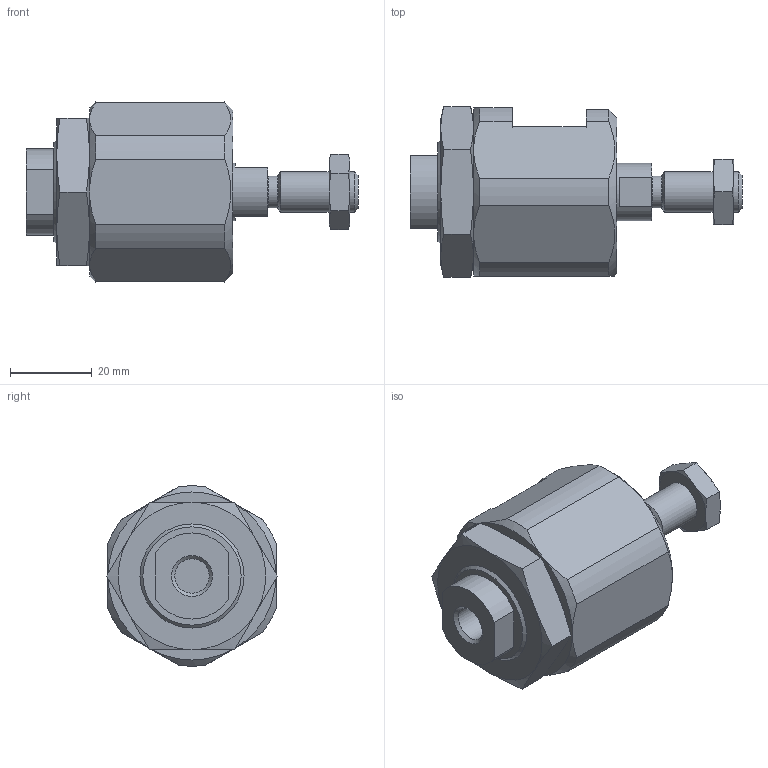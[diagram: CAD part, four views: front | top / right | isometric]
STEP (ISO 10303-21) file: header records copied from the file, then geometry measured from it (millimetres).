
FILE_DESCRIPTION( ( 'STEP AP203' ), '1' );
FILE_NAME( 'C:/Temp/Ganter_Step_05_03_2020/data/3_6/gn240_2/Rapid plug-in coupling GN 240.2-M10 (0).stp', '2020-03-12T14:08:22', ( 'License CC BY-ND 4.0' ), ( 'CADENAS' ), ' ', 'PARTsolutions', ' ' );
FILE_SCHEMA( ( 'CONFIG_CONTROL_DESIGN' ) );
Length unit declared in the file: millimetre
Products named in the file (4): Rapid plug-in coupling GN 240.2-M10 (0); _Rapid plug-in coupling GN 240.2-M10 (0)-1; _Rapid plug-in coupling GN 240.2-M10 (0)-5; _Rapid plug-in coupling GN 240.2-M10 (0)-4
Assembly tree (3 placements, depth 2):
  Rapid plug-in coupling GN 240.2-M10 (0)
    _Rapid plug-in coupling GN 240.2-M10 (0)-1
    _Rapid plug-in coupling GN 240.2-M10 (0)-5
    _Rapid plug-in coupling GN 240.2-M10 (0)-4
Bounding box: 81 x 41.57 x 43.94 mm (x, y, z)
Volume: 53320 mm3; surface area: 16722.1 mm2
Topology: 3 solids, 3 shells, 105 faces, 236 edges, 145 vertices
Faces by surface type: plane 44, cone 39, cylinder 19, torus 2, sphere 1
Full cylindrical faces by diameter (mm): 7.7 x1, 8.376 x2, 10 x1, 14 x1, 26.6 x2
Entity records: 3116 total; most frequent: CARTESIAN_POINT 789, DIRECTION 451, ORIENTED_EDGE 430, EDGE_CURVE 215, AXIS2_PLACEMENT_3D 194, VERTEX_POINT 142, EDGE_LOOP 135, FACE_OUTER_BOUND 115
